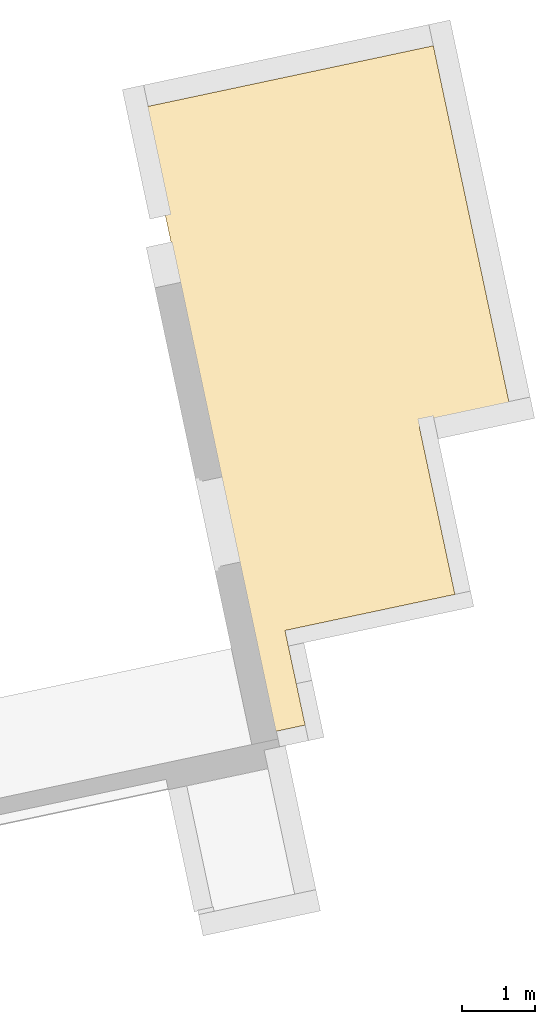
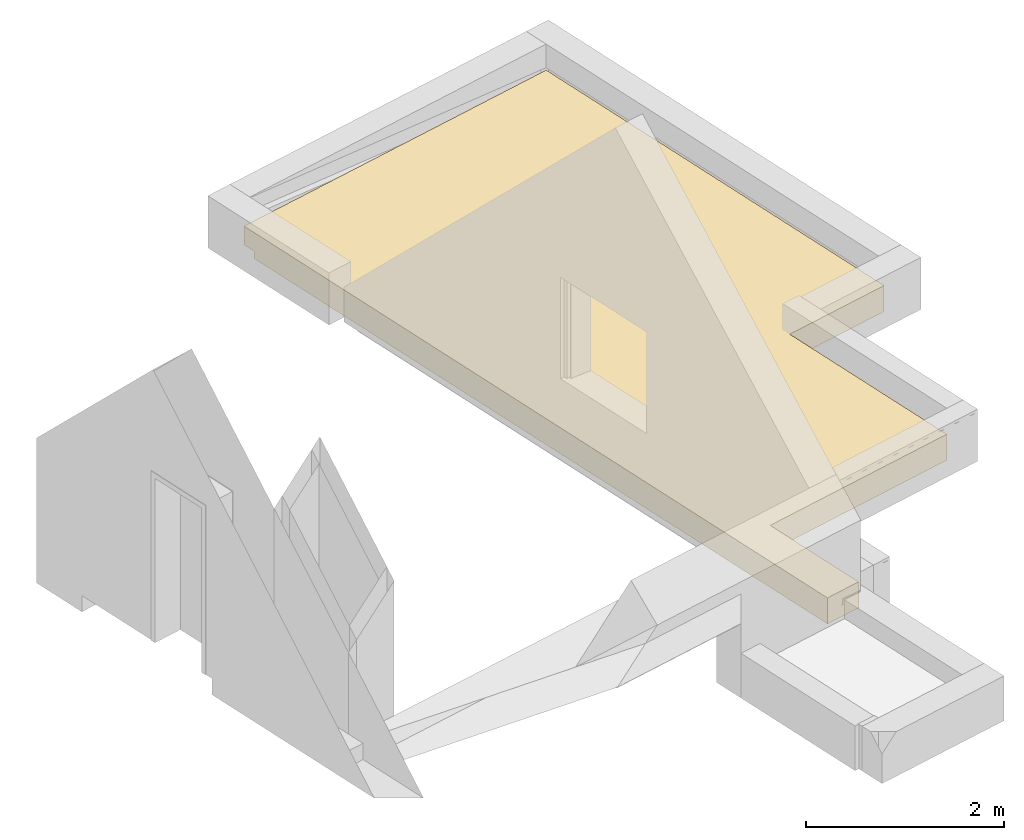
# One storey, part 5 of 5: 1 covering.
"""IFC2X3 building model written with IfcOpenShell, lengths in centimetres."""

from ifc_helpers import new_model, entity, si_unit, converted_unit, derived_unit, direction, frame, origin, place, context, subcontext, project, spatial, faceted_brep, material, layer, layer_set, layer_usage, type_object, element, save


model = new_model("IFC2X3")

# Units and contexts
model_context = context("Model", 3, precision=0.001, world=origin(), true_north=direction((6.12303176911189e-17, 1.0)))
body_context = subcontext(model_context, "Body", "Model", "MODEL_VIEW")
ifc_project = project(units=[si_unit("LENGTHUNIT", "METRE", prefix="CENTI"), si_unit("AREAUNIT", "SQUARE_METRE"), si_unit("VOLUMEUNIT", "CUBIC_METRE"), converted_unit("PLANEANGLEUNIT", "DEGREE", entity("IfcRatioMeasure", 0.0174532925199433), si_unit("PLANEANGLEUNIT", "RADIAN"), dimensions=[0, 0, 0, 0, 0, 0, 0]), si_unit("MASSUNIT", "GRAM", prefix="KILO"), derived_unit("MASSDENSITYUNIT", [(si_unit("MASSUNIT", "GRAM", prefix="KILO"), 1), (si_unit("LENGTHUNIT", "METRE"), -3)]), derived_unit("IONCONCENTRATIONUNIT", [(si_unit("MASSUNIT", "GRAM", prefix="KILO"), 1), (si_unit("LENGTHUNIT", "METRE"), -3)]), derived_unit("MOMENTOFINERTIAUNIT", [(si_unit("LENGTHUNIT", "METRE"), 4)]), si_unit("TIMEUNIT", "SECOND"), si_unit("FREQUENCYUNIT", "HERTZ"), si_unit("THERMODYNAMICTEMPERATUREUNIT", "DEGREE_CELSIUS"), derived_unit("THERMALTRANSMITTANCEUNIT", [(si_unit("MASSUNIT", "GRAM", prefix="KILO"), 1), (si_unit("THERMODYNAMICTEMPERATUREUNIT", "KELVIN"), -1), (si_unit("TIMEUNIT", "SECOND"), -3)]), derived_unit("THERMALCONDUCTANCEUNIT", [(si_unit("MASSUNIT", "GRAM", prefix="KILO"), 1), (si_unit("THERMODYNAMICTEMPERATUREUNIT", "KELVIN"), -1), (si_unit("TIMEUNIT", "SECOND"), -3), (si_unit("LENGTHUNIT", "METRE"), 1)]), derived_unit("VOLUMETRICFLOWRATEUNIT", [(si_unit("LENGTHUNIT", "METRE"), 3), (si_unit("TIMEUNIT", "SECOND"), -1)]), derived_unit("MASSFLOWRATEUNIT", [(si_unit("MASSUNIT", "GRAM", prefix="KILO"), 1), (si_unit("TIMEUNIT", "SECOND"), -1)]), derived_unit("ROTATIONALFREQUENCYUNIT", [(si_unit("TIMEUNIT", "SECOND"), -1)]), si_unit("ELECTRICCURRENTUNIT", "AMPERE"), si_unit("ELECTRICVOLTAGEUNIT", "VOLT"), si_unit("POWERUNIT", "WATT"), si_unit("FORCEUNIT", "NEWTON", prefix="KILO"), si_unit("ILLUMINANCEUNIT", "LUX"), si_unit("LUMINOUSFLUXUNIT", "LUMEN"), si_unit("LUMINOUSINTENSITYUNIT", "CANDELA"), derived_unit("USERDEFINED", [(si_unit("MASSUNIT", "GRAM", prefix="KILO"), -1), (si_unit("LENGTHUNIT", "METRE"), -2), (si_unit("TIMEUNIT", "SECOND"), 3), (si_unit("LUMINOUSFLUXUNIT", "LUMEN"), 1)]), derived_unit("USERDEFINED", [(si_unit("MASSUNIT", "GRAM", prefix="KILO"), 1), (si_unit("TIMEUNIT", "SECOND"), -3), (si_unit("LENGTHUNIT", "METRE"), 3), (si_unit("ELECTRICCURRENTUNIT", "AMPERE"), -2)]), derived_unit("SOUNDPOWERUNIT", [(si_unit("MASSUNIT", "GRAM", prefix="KILO"), 1), (si_unit("TIMEUNIT", "SECOND"), -3), (si_unit("LENGTHUNIT", "METRE"), 2)]), derived_unit("SOUNDPRESSUREUNIT", [(si_unit("MASSUNIT", "GRAM", prefix="KILO"), 1), (si_unit("LENGTHUNIT", "METRE"), -1), (si_unit("TIMEUNIT", "SECOND"), -2)]), derived_unit("LINEARVELOCITYUNIT", [(si_unit("LENGTHUNIT", "METRE"), 1), (si_unit("TIMEUNIT", "SECOND"), -1)]), si_unit("PRESSUREUNIT", "PASCAL"), derived_unit("USERDEFINED", [(si_unit("MASSUNIT", "GRAM", prefix="KILO"), 1), (si_unit("LENGTHUNIT", "METRE"), -2), (si_unit("TIMEUNIT", "SECOND"), -2)]), derived_unit("LINEARFORCEUNIT", [(si_unit("MASSUNIT", "GRAM", prefix="KILO"), 1), (si_unit("TIMEUNIT", "SECOND"), -2)]), derived_unit("PLANARFORCEUNIT", [(si_unit("MASSUNIT", "GRAM", prefix="KILO"), 1), (si_unit("LENGTHUNIT", "METRE"), -1), (si_unit("TIMEUNIT", "SECOND"), -2)]), derived_unit("SPECIFICHEATCAPACITYUNIT", [(si_unit("THERMODYNAMICTEMPERATUREUNIT", "KELVIN"), -1), (si_unit("LENGTHUNIT", "METRE"), 2), (si_unit("TIMEUNIT", "SECOND"), -2)]), derived_unit("HEATINGVALUEUNIT", [(si_unit("LENGTHUNIT", "METRE"), 2), (si_unit("TIMEUNIT", "SECOND"), -2)]), derived_unit("VAPORPERMEABILITYUNIT", [(si_unit("LENGTHUNIT", "METRE"), -1), (si_unit("TIMEUNIT", "SECOND"), 1)]), derived_unit("DYNAMICVISCOSITYUNIT", [(si_unit("MASSUNIT", "GRAM", prefix="KILO"), 1), (si_unit("TIMEUNIT", "SECOND"), -1), (si_unit("LENGTHUNIT", "METRE"), -1)]), derived_unit("THERMALEXPANSIONCOEFFICIENTUNIT", [(si_unit("THERMODYNAMICTEMPERATUREUNIT", "KELVIN"), -1)]), derived_unit("MODULUSOFELASTICITYUNIT", [(si_unit("MASSUNIT", "GRAM", prefix="KILO"), 1), (si_unit("LENGTHUNIT", "METRE"), -1), (si_unit("TIMEUNIT", "SECOND"), -2)]), derived_unit("ISOTHERMALMOISTURECAPACITYUNIT", [(si_unit("LENGTHUNIT", "METRE"), 3), (si_unit("MASSUNIT", "GRAM", prefix="KILO"), -1)]), derived_unit("MOISTUREDIFFUSIVITYUNIT", [(si_unit("TIMEUNIT", "SECOND"), -1), (si_unit("LENGTHUNIT", "METRE"), 2)])], contexts=[model_context])

# Site, building, storey
site_placement = place(None, frame((14083.8920177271, -6853.25409548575, 6900.0), z_axis=(0.0, 0.0, 1.0), x_axis=(0.978188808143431, 0.207717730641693, 0.0)))
site = spatial("IfcSite", under=ifc_project, at=site_placement, Name="Surface", CompositionType="ELEMENT")
building_placement = place(site_placement, origin())
building = spatial("IfcBuilding", under=site, at=building_placement, CompositionType="ELEMENT")
storey_placement = place(building_placement, frame((0.0, 0.0, 269.0)))
storey = spatial("IfcBuildingStorey", under=building, at=storey_placement, Name="***R+1 (SD)***", CompositionType="ELEMENT", Elevation=269.0)

# Covering
ifc_material_1 = material(Name="Laine minérale")
ifc_layer_1 = layer(ifc_material_1, 30.0)
ifc_material_2 = material(Name="__ BA 13")
ifc_layer_2 = layer(ifc_material_2, 2.0)
ifc_layer_set = layer_set([ifc_layer_1, ifc_layer_2], Name="Plafond composé:*BA13+ suspentes métalliques ISO 30")
ifc_layer_usage = layer_usage(ifc_layer_set, "AXIS3", "POSITIVE", 0.0)
covering_type = type_object("IfcCoveringType", Name="Plafond composé:*BA13+ suspentes métalliques ISO 30", PredefinedType="CEILING")
covering_placement = place(storey_placement, frame((-6254.81321908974, 14812.6673447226, -9.0)))
element("IfcCovering", 1, at=covering_placement, inside=storey, type_object=covering_type, material=ifc_layer_usage, Name="Plafond composé:*BA13+ suspentes métalliques ISO 30", ObjectType="Plafond composé:*BA13+ suspentes métalliques ISO 30", PredefinedType="CEILING", context=body_context, shape_type="Brep", body=[
    faceted_brep([(410.0, 879.499999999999, 32.0), (0.0, 879.499999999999, 32.0), (0.0, 0.0, 32.0), (42.4999999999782, 0.0, 32.0), (42.4999999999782, 133.393124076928, 32.0), (282.0, 133.393124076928, 32.0), (282.0, 370.0, 32.0), (410.0, 370.0, 32.0), (410.0, 370.0, 0.0), (282.0, 370.0, 0.0), (282.0, 133.393124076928, 0.0), (42.4999999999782, 133.393124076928, 0.0), (42.4999999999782, 0.0, 0.0), (0.0, 0.0, 0.0), (0.0, 864.500000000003, 0.0), (10.0, 864.500000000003, 0.0), (10.0, 879.499999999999, 0.0), (410.0, 879.499999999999, 0.0), (410.0, 879.499999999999, 11.9462782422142), (10.0, 879.499999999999, 9.0), (0.0, 879.499999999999, 9.0), (0.0, 864.500000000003, 9.0), (10.0, 864.500000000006, 9.0)], [[[0, 1, 2, 3, 4, 5, 6, 7]], [[8, 9, 10, 11, 12, 13, 14, 15, 16, 17]], [[1, 0, 18, 17, 16, 19, 20]], [[2, 1, 20, 21, 14, 13]], [[7, 6, 9, 8]], [[0, 7, 8, 17, 18]], [[3, 2, 13, 12]], [[4, 3, 12, 11]], [[5, 4, 11, 10]], [[6, 5, 10, 9]], [[15, 22, 19, 16]], [[22, 15, 14, 21]], [[19, 22, 21, 20]]]),
])

save(model, "model.ifc")
